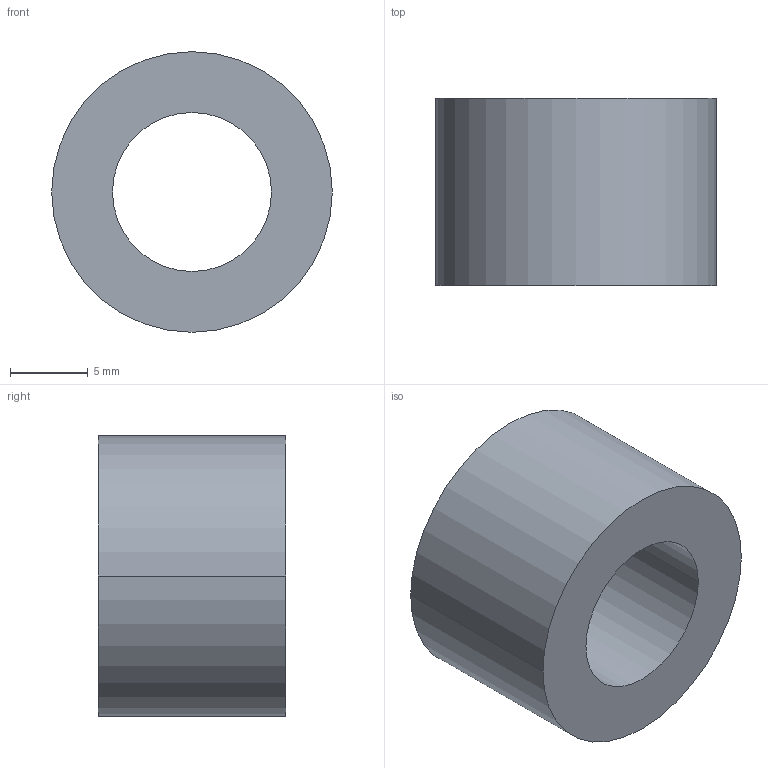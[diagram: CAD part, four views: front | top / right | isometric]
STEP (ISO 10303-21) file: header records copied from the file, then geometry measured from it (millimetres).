
FILE_DESCRIPTION (( 'STEP AP203' ), '1' );
FILE_NAME ('30800.WPP18E10.2.step', '2019-01-23T22:34:25', ( '' ), ( '' ), 'SwSTEP 2.0', 'SolidWorks 2017', '' );
FILE_SCHEMA (( 'CONFIG_CONTROL_DESIGN' ));
Length unit declared in the file: millimetre
Products named in the file (1): 30800.WPP18E10.2
Bounding box: 18 x 12 x 18 mm (x, y, z)
Volume: 2043.2 mm3; surface area: 1382.9 mm2
Topology: 1 solids, 1 shells, 8 faces, 16 edges, 10 vertices
Faces by surface type: cylinder 4, torus 2, plane 2
Entity records: 297 total; most frequent: DIRECTION 46, CARTESIAN_POINT 35, ORIENTED_EDGE 32, AXIS2_PLACEMENT_3D 21, EDGE_CURVE 16, CIRCLE 12, VERTEX_POINT 10, EDGE_LOOP 10
